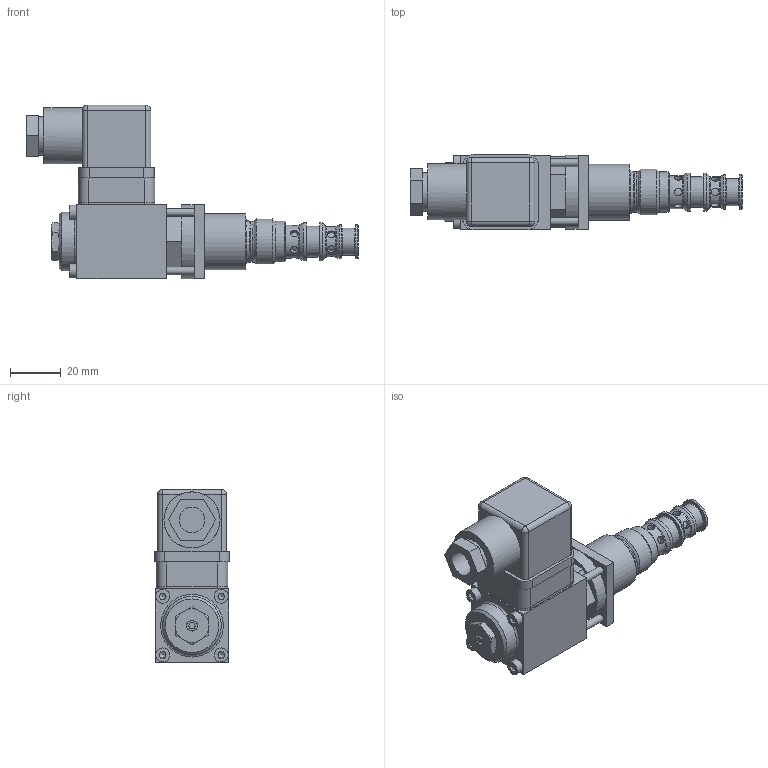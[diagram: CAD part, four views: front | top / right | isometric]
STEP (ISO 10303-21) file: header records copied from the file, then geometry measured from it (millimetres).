
FILE_DESCRIPTION(('Bauteilbeschreibung','HiCAD-Model','HiCAD-STEP-TRANSLATION','Bauteilbeschreibung'),'2;1');
FILE_NAME('C:/_EIGENE_DATEN/DXF_STEP/MVPPM18_4508.STP','2008-11-04T14:27:33+00:00',('Konstrukteur'),('Konstrukteur Firma GmbH'),' HiCAD neXt 2007, Step 3.1.1212.3C ','HiCAD neXt 2007','confidential');
FILE_SCHEMA(('AUTOMOTIVE_DESIGN { 1 2 10303 214 0 1 1 1 }'));
Length unit declared in the file: millimetre
Products named in the file (24): MVPPM18_4508; MVPPM18; A2373862; AB0E3F5C; A86115F3; CA9517B3; CA9517B30; DICHTUNG; A6EB7CD7; D82DEE49; B7D73F2A; ZYL_SCHR; F7AED368; F7AED3680; DIN_13; F7AED3681; F7AED3682; DIN013; F7AED3683; F7AED3684; DIN0130; F7AED3685; F7AED3686; DIN0131
Assembly tree (23 placements, depth 6):
  MVPPM18_4508
    MVPPM18
      A2373862
        AB0E3F5C
          A86115F3
          CA9517B3
          CA9517B30
            DICHTUNG
          A6EB7CD7
        D82DEE49
        B7D73F2A
        ZYL_SCHR
          F7AED368
          F7AED3680
            DIN_13
          F7AED3681
          F7AED3682
            DIN013
          F7AED3683
          F7AED3684
            DIN0130
          F7AED3685
          F7AED3686
            DIN0131
Bounding box: 130.3 x 29.5 x 68 mm (x, y, z)
Volume: 90397.4 mm3; surface area: 31005.6 mm2
Topology: 17 solids, 17 shells, 360 faces, 808 edges, 522 vertices
Faces by surface type: plane 188, cylinder 119, cone 36, torus 13, sphere 4
Full cylindrical faces by diameter (mm): 1.5 x3, 2 x1, 2.387 x8, 2.5 x1, 2.9 x1, 3 x27, 3.4 x4, 4.2 x1, 4.5 x1, 5.5 x4, 6.5 x1, 6.8 x1, 8 x3, 10 x2, 10.6 x1, 12 x2, 12.1 x1, 13 x1, 13.5 x2, 15 x4, 16 x1, 22 x2, 23 x1, 29 x1
Entity records: 15012 total; most frequent: CARTESIAN_POINT 7074, DIRECTION 1659, ORIENTED_EDGE 1298, AXIS2_PLACEMENT_3D 661, EDGE_CURVE 649, EDGE_LOOP 542, VERTEX_POINT 479, ADVANCED_FACE 360
